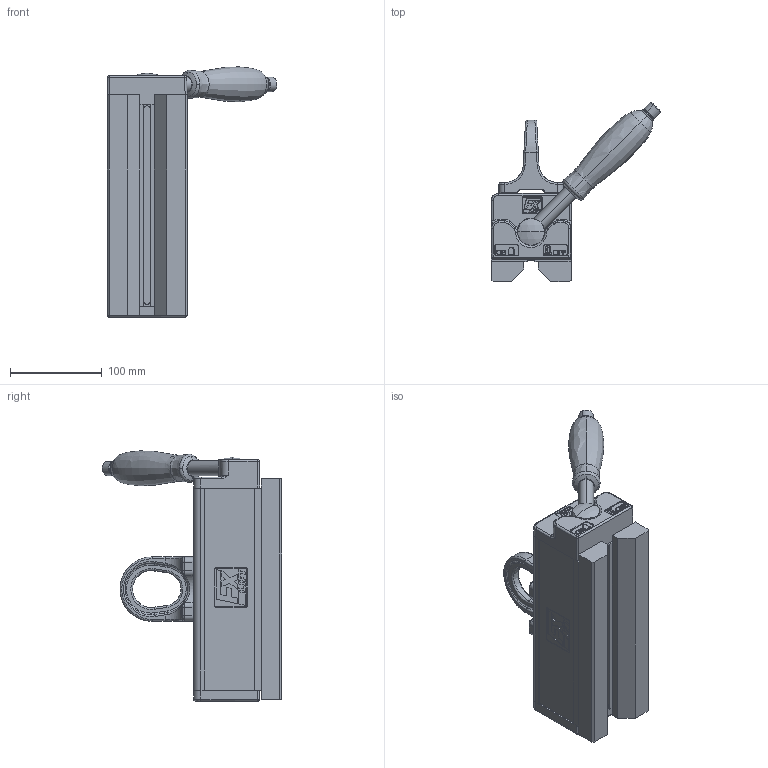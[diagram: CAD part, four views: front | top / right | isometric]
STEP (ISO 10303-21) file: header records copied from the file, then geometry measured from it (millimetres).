
FILE_DESCRIPTION (( 'STEP AP203' ), '1' );
FILE_NAME ('FX V 400 Vertrieb.STEP', '2016-09-22T06:34:34', ( '' ), ( '' ), 'SwSTEP 2.0', 'SolidWorks 2013', '' );
FILE_SCHEMA (( 'CONFIG_CONTROL_DESIGN' ));
Length unit declared in the file: millimetre
Products named in the file (1): FX V 400 Vertrieb
Bounding box: 184.78 x 195.28 x 272.44 mm (x, y, z)
Volume: 2083818.6 mm3; surface area: 180227.2 mm2
Topology: 1 solids, 1 shells, 1163 faces, 2925 edges, 1690 vertices
Faces by surface type: plane 423, bspline 392, cylinder 170, cone 158, torus 16, sphere 4
Entity records: 72489 total; most frequent: CARTESIAN_POINT 48026, ORIENTED_EDGE 5592, DIRECTION 4187, EDGE_CURVE 2796, VERTEX_POINT 1690, LINE 1459, VECTOR 1459, AXIS2_PLACEMENT_3D 1364
